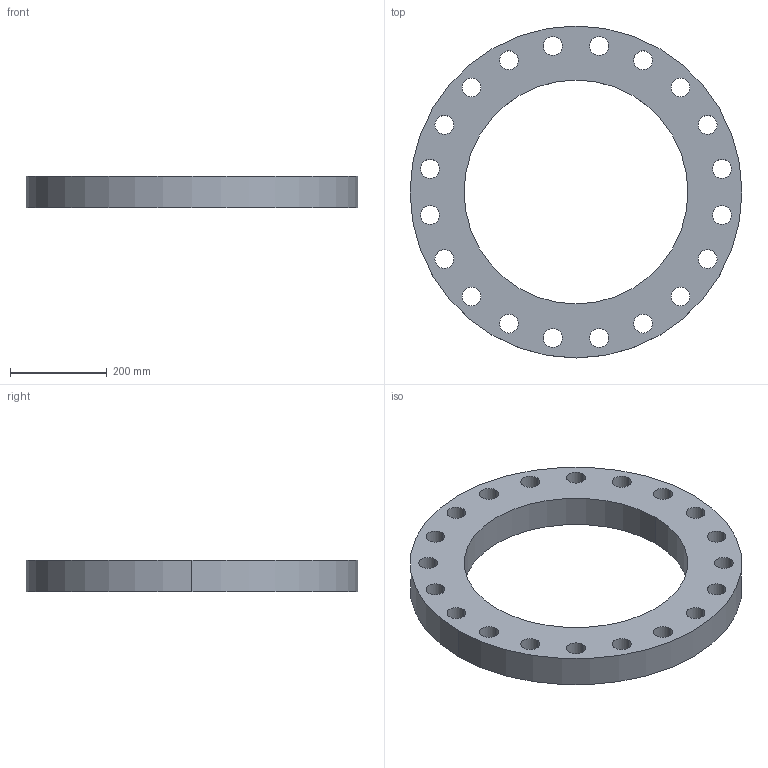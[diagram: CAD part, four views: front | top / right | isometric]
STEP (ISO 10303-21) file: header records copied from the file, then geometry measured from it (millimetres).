
FILE_DESCRIPTION (( 'STEP AP214' ), '1' );
FILE_NAME ('PN40 DN450 Type 01 - Type A Face.STEP', '2018-12-29T02:52:43', ( '' ), ( '' ), 'SwSTEP 2.0', 'SolidWorks 2019', '' );
FILE_SCHEMA (( 'AUTOMOTIVE_DESIGN' ));
Length unit declared in the file: millimetre
Products named in the file (1): PN40 DN450 Type 01 - Type A Face
Bounding box: 685 x 685 x 66 mm (x, y, z)
Volume: 11681875.6 mm3; surface area: 753550.3 mm2
Topology: 1 solids, 1 shells, 46 faces, 132 edges, 88 vertices
Faces by surface type: cylinder 44, plane 2
Entity records: 1682 total; most frequent: DIRECTION 314, CARTESIAN_POINT 267, ORIENTED_EDGE 264, AXIS2_PLACEMENT_3D 135, EDGE_CURVE 132, EDGE_LOOP 88, VERTEX_POINT 88, CIRCLE 88
